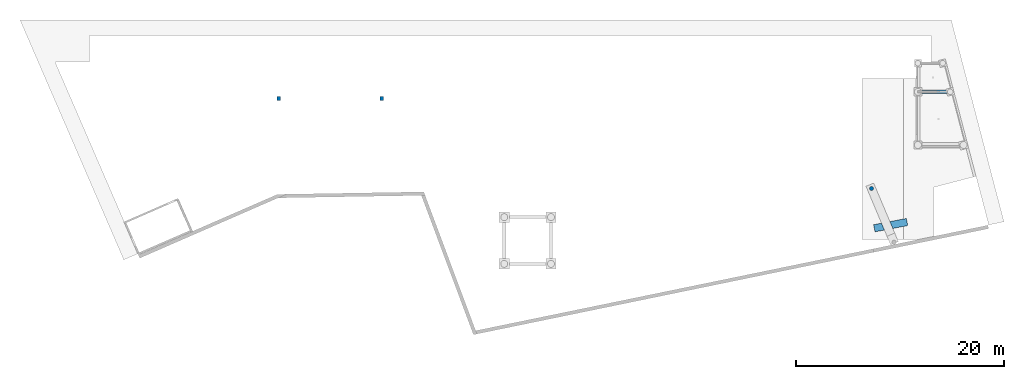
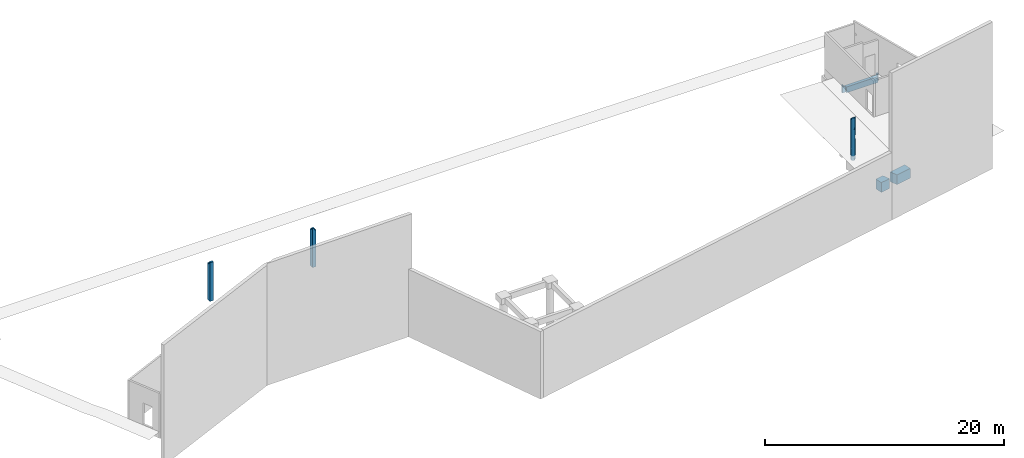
# One storey, part 3 of 5: 3 columns, 2 beams.
"""IFC2X3 building model written with IfcOpenShell, lengths in centimetres."""

from ifc_helpers import new_model, entity, si_unit, converted_unit, derived_unit, direction, frame, origin, place, context, subcontext, project, spatial, faceted_brep, source, transform, mapped, material, type_object, type_shapes, element, save


model = new_model("IFC2X3")

# Units and contexts
model_context = context("Model", 3, precision=0.001, world=origin(), true_north=direction((6.12303176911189e-17, 1.0)))
body_context = subcontext(model_context, "Body", "Model", "MODEL_VIEW")
ifc_project = project(units=[si_unit("LENGTHUNIT", "METRE", prefix="CENTI"), si_unit("AREAUNIT", "SQUARE_METRE"), si_unit("VOLUMEUNIT", "CUBIC_METRE"), converted_unit("PLANEANGLEUNIT", "DEGREE", entity("IfcRatioMeasure", 0.0174532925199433), si_unit("PLANEANGLEUNIT", "RADIAN"), dimensions=[0, 0, 0, 0, 0, 0, 0]), si_unit("MASSUNIT", "GRAM", prefix="KILO"), derived_unit("MASSDENSITYUNIT", [(si_unit("MASSUNIT", "GRAM", prefix="KILO"), 1), (si_unit("LENGTHUNIT", "METRE"), -3)]), si_unit("TIMEUNIT", "SECOND"), si_unit("FREQUENCYUNIT", "HERTZ"), si_unit("THERMODYNAMICTEMPERATUREUNIT", "DEGREE_CELSIUS"), derived_unit("THERMALTRANSMITTANCEUNIT", [(si_unit("MASSUNIT", "GRAM", prefix="KILO"), 1), (si_unit("THERMODYNAMICTEMPERATUREUNIT", "KELVIN"), -1), (si_unit("TIMEUNIT", "SECOND"), -3)]), derived_unit("VOLUMETRICFLOWRATEUNIT", [(si_unit("LENGTHUNIT", "METRE"), 3), (si_unit("TIMEUNIT", "SECOND"), -1)]), si_unit("ELECTRICCURRENTUNIT", "AMPERE"), si_unit("ELECTRICVOLTAGEUNIT", "VOLT"), si_unit("POWERUNIT", "WATT"), si_unit("FORCEUNIT", "NEWTON"), si_unit("ILLUMINANCEUNIT", "LUX"), si_unit("LUMINOUSFLUXUNIT", "LUMEN"), si_unit("LUMINOUSINTENSITYUNIT", "CANDELA"), derived_unit("USERDEFINED", [(si_unit("MASSUNIT", "GRAM", prefix="KILO"), -1), (si_unit("LENGTHUNIT", "METRE"), -2), (si_unit("TIMEUNIT", "SECOND"), 3), (si_unit("LUMINOUSFLUXUNIT", "LUMEN"), 1)]), derived_unit("LINEARVELOCITYUNIT", [(si_unit("LENGTHUNIT", "METRE"), 1), (si_unit("TIMEUNIT", "SECOND"), -1)]), si_unit("PRESSUREUNIT", "PASCAL"), derived_unit("USERDEFINED", [(si_unit("LENGTHUNIT", "METRE"), -2), (si_unit("MASSUNIT", "GRAM", prefix="KILO"), 1), (si_unit("TIMEUNIT", "SECOND"), -2)])], contexts=[model_context])

# Site, building, storey
site_placement = place(None, origin())
site = spatial("IfcSite", under=ifc_project, at=site_placement, Name="Default", CompositionType="ELEMENT")
building_placement = place(site_placement, origin())
building = spatial("IfcBuilding", under=site, at=building_placement, Name="CAGE 03", CompositionType="ELEMENT")
storey_placement = place(building_placement, frame((0.0, 0.0, -50.0)))
storey = spatial("IfcBuildingStorey", under=building, at=storey_placement, Name="+3.50", CompositionType="ELEMENT", Elevation=-50.0000000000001)

# Columns
ifc_material = material(Name="Béton, C25/30")
column_type_1 = type_object("IfcColumnType", Name="35x40", PredefinedType="COLUMN", material=ifc_material)
shared_shape_1 = source(origin(), body_context, "Body", "Brep", [
    faceted_brep([(0.0, 0.0, 398.0), (35.0, 0.0, 398.0), (35.0, 18.0, 398.0), (0.0, 18.0, 398.0), (0.0, 0.0, 298.0), (35.0, 0.0, 298.0), (35.0, 0.0, 378.0), (35.0, 0.0, 397.589956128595), (35.0, 40.0, 298.0), (35.0, 40.0, 375.0), (35.0, 18.0, 375.0), (0.0, 40.0, 298.0), (0.0, 40.0, 375.0), (0.0, 18.0, 375.0)], [[[0, 1, 2, 3]], [[1, 0, 4, 5, 6, 7]], [[1, 7, 6, 5, 8, 9, 10, 2]], [[8, 11, 12, 9]], [[4, 0, 3, 13, 12, 11]], [[5, 4, 11, 8]], [[13, 10, 9, 12]], [[10, 13, 3, 2]]]),
    faceted_brep([(0.0, 40.0, 0.0), (35.0, 40.0, 0.0), (35.0, 0.0, 0.0), (0.0, 0.0, 0.0), (0.0, 40.0, 298.0), (35.0, 40.0, 298.0), (35.0, 0.0, 298.0), (0.0, 0.0, 298.0)], [[[0, 1, 2, 3]], [[4, 5, 1, 0]], [[5, 6, 2, 1]], [[6, 7, 3, 2]], [[7, 4, 0, 3]], [[4, 7, 6, 5]]]),
])
type_shapes(column_type_1, [shared_shape_1])
column_1_placement = place(storey_placement, frame((4878.36582014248, 4668.66066607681, -8.0)))
element("IfcColumn", 1, at=column_1_placement, inside=storey, type_object=column_type_1, material=ifc_material, Name="BBGO-Poteau rect:35x40", ObjectType="35x40", context=body_context, shape_type="MappedRepresentation", body=[
    mapped(shared_shape_1, transform((0.0, 0.0, 0.0), scale=1.0)),
])
column_type_2 = type_object("IfcColumnType", Name="35x40", PredefinedType="COLUMN", material=ifc_material)
shared_shape_2 = source(origin(), body_context, "Body", "Brep", [
    faceted_brep([(0.0, 0.0, 398.0), (18.0, 0.0, 398.0), (18.0, 18.0, 398.0), (0.0, 18.0, 398.0), (0.0, 0.0, 298.0), (35.0, 0.0, 298.0), (35.0, 0.0, 375.0), (18.0, 0.0, 375.0), (35.0, 40.0, 298.0), (35.0, 40.0, 375.0), (0.0, 40.0, 298.0), (0.0, 40.0, 318.0), (0.0, 40.0, 375.0), (0.0, 18.0, 375.0), (18.0, 18.0, 375.0)], [[[0, 1, 2, 3]], [[0, 4, 5, 6, 7, 1]], [[5, 8, 9, 6]], [[8, 10, 11, 12, 9]], [[4, 0, 3, 13, 12, 11, 10]], [[5, 4, 10, 8]], [[13, 14, 7, 6, 9, 12]], [[14, 2, 1, 7]], [[2, 14, 13, 3]]]),
    faceted_brep([(0.0, 40.0, 0.0), (35.0, 40.0, 0.0), (35.0, 0.0, 0.0), (0.0, 0.0, 0.0), (0.0, 40.0, 298.0), (35.0, 40.0, 298.0), (35.0, 0.0, 298.0), (0.0, 0.0, 298.0)], [[[0, 1, 2, 3]], [[4, 5, 1, 0]], [[5, 6, 2, 1]], [[6, 7, 3, 2]], [[7, 4, 0, 3]], [[4, 7, 6, 5]]]),
])
type_shapes(column_type_2, [shared_shape_2])
column_2_placement = place(storey_placement, frame((5870.36582014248, 4668.6606660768, -8.0)))
element("IfcColumn", 2, at=column_2_placement, inside=storey, type_object=column_type_2, material=ifc_material, Name="BBGO-Poteau rect:35x40", ObjectType="35x40", context=body_context, shape_type="MappedRepresentation", body=[
    mapped(shared_shape_2, transform((0.0, 0.0, 0.0), scale=1.0)),
])
column_type_3 = type_object("IfcColumnType", Name="Ø40", PredefinedType="COLUMN", material=ifc_material)
shared_shape_3 = source(origin(), body_context, "Body", "Brep", [
    faceted_brep([(20.1592798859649, 0.15952722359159, 432.0), (24.1747863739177, 0.56562620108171, 432.0), (28.0268823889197, 1.77079902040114, 432.0), (31.558790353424, 3.72501818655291, 432.0), (34.6266586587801, 6.34892979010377, 432.0), (37.1053163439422, 9.53579493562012, 432.0), (38.8945212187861, 13.158423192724, 432.0), (1.42453322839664, 13.158423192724, 432.0), (3.21309378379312, 9.5368228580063, 432.0), (5.69163350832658, 6.34972841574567, 432.0), (8.75957364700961, 3.72549714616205, 432.0), (12.2915774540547, 1.77105343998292, 432.0), (16.1437464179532, 0.565733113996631, 432.0), (20.1595272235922, 40.1568322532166, 332.0), (24.6091393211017, 39.6571655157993, 332.0), (28.8358050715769, 38.178473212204, 332.0), (32.6277082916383, 35.7963406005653, 332.0), (35.79474182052, 32.629993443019, 332.0), (38.1780107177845, 28.8379538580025, 332.0), (39.657714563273, 24.6104665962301, 332.0), (40.1595272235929, 20.1584231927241, 332.0), (39.657714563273, 15.7063797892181, 332.0), (38.1780107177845, 11.4788925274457, 332.0), (35.7947418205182, 7.68685294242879, 332.0), (32.6277082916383, 4.52050578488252, 332.0), (28.8358050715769, 2.13837317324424, 332.0), (24.6091393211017, 0.659680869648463, 332.0), (20.1595272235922, 0.160014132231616, 332.0), (15.7099151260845, 0.659680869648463, 332.0), (11.4832493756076, 2.13837317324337, 332.0), (7.69134615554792, 4.52050578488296, 332.0), (4.52431262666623, 7.68685294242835, 332.0), (2.14104372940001, 11.4788925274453, 332.0), (0.661339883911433, 15.7063797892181, 332.0), (0.159527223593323, 20.1584231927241, 332.0), (0.661339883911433, 24.6104665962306, 332.0), (2.14104372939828, 28.8379538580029, 332.0), (4.52431262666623, 32.6299934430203, 332.0), (7.69134615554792, 35.7963406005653, 332.0), (11.4832493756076, 38.178473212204, 332.0), (15.7099151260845, 39.6571655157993, 332.0), (0.478319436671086, 16.6017309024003, 409.0), (0.15952722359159, 20.1584231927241, 409.0), (1.42453322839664, 13.1584231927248, 409.0), (38.8945212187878, 13.158423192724, 409.0), (39.8407350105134, 16.6017309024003, 409.0), (40.1595272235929, 20.1584231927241, 409.0), (38.1780106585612, 28.8379539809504, 409.0), (28.835804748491, 38.1784733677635, 409.0), (32.6277079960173, 35.7963408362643, 409.0), (35.794741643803, 32.6299936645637, 409.0), (24.6091391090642, 39.6571655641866, 409.0), (39.6577145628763, 24.6104665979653, 409.0), (20.1595272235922, 40.1584231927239, 409.0), (11.4832496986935, 38.1784733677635, 409.0), (7.69134645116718, 35.7963408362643, 409.0), (0.661339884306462, 24.6104665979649, 409.0), (2.14104378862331, 28.8379539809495, 409.0), (4.52431280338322, 32.6299936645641, 409.0), (15.7099153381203, 39.6571655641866, 409.0)], [[[0, 1, 2, 3, 4, 5, 6, 7, 8, 9, 10, 11, 12]], [[13, 14, 15, 16, 17, 18, 19, 20, 21, 22, 23, 24, 25, 26, 27, 28, 29, 30, 31, 32, 33, 34, 35, 36, 37, 38, 39, 40]], [[41, 34, 33]], [[41, 42, 34]], [[43, 33, 32]], [[30, 29, 10]], [[9, 31, 30]], [[8, 32, 31]], [[11, 29, 28]], [[43, 41, 33]], [[8, 7, 43]], [[32, 8, 43]], [[31, 9, 8]], [[9, 30, 10]], [[11, 10, 29]], [[12, 11, 28]], [[12, 27, 0]], [[12, 28, 27]], [[2, 26, 25]], [[1, 27, 26]], [[3, 25, 24]], [[22, 21, 44]], [[5, 23, 22]], [[4, 24, 23]], [[45, 21, 20]], [[2, 25, 3]], [[4, 3, 24]], [[2, 1, 26]], [[44, 21, 45]], [[44, 6, 5]], [[20, 46, 45]], [[5, 4, 23]], [[22, 44, 5]], [[27, 1, 0]], [[47, 18, 17]], [[15, 14, 48]], [[49, 16, 15]], [[50, 17, 16]], [[13, 51, 14]], [[19, 52, 46, 20]], [[19, 18, 52]], [[47, 52, 18]], [[17, 50, 47]], [[16, 49, 50]], [[48, 49, 15]], [[14, 51, 48]], [[13, 53, 51]], [[54, 40, 39]], [[38, 55, 39]], [[36, 35, 56]], [[57, 37, 36]], [[58, 38, 37]], [[42, 56, 35, 34]], [[13, 59, 53]], [[59, 40, 54]], [[55, 54, 39]], [[38, 58, 55]], [[37, 57, 58]], [[56, 57, 36]], [[59, 13, 40]], [[48, 51, 53, 59, 54, 55, 58, 57, 56, 42, 41, 43, 44, 45, 46, 52, 47, 50, 49]], [[6, 44, 43, 7]]]),
    faceted_brep([(22.570260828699, 40.0126006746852, 0.0), (27.2516249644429, 38.8587480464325, 0.0), (31.5208221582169, 36.6181005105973, 0.0), (35.1297421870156, 33.4208763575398, 0.0), (37.868647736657, 29.4528866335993, 0.0), (39.5783635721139, 24.9447364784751, 0.0), (40.1595272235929, 20.1584231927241, 0.0), (39.5783635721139, 15.3721099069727, 0.0), (37.868647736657, 10.8639597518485, 0.0), (35.1297421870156, 6.89597002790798, 0.0), (31.5208221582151, 3.69874587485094, 0.0), (27.2516249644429, 1.45809833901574, 0.0), (22.570260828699, 0.304245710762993, 0.0), (17.7487936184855, 0.304245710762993, 0.0), (13.0674294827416, 1.45809833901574, 0.0), (8.79823228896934, 3.69874587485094, 0.0), (5.18931226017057, 6.89597002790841, 0.0), (2.45040671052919, 10.863959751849, 0.0), (0.740690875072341, 15.3721099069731, 0.0), (0.159527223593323, 20.1584231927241, 0.0), (0.740690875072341, 24.9447364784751, 0.0), (2.45040671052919, 29.4528866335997, 0.0), (5.18931226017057, 33.4208763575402, 0.0), (8.79823228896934, 36.6181005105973, 0.0), (13.0674294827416, 38.8587480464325, 0.0), (17.7487936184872, 40.0126006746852, 0.0), (27.2516249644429, 1.45809833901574, 332.0), (31.5208221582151, 3.69874587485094, 332.0), (35.1297421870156, 6.89597002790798, 332.0), (37.868647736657, 10.8639597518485, 332.0), (39.5783635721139, 15.3721099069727, 332.0), (40.1595272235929, 20.1584231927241, 332.0), (39.5783635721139, 24.9447364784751, 332.0), (37.868647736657, 29.4528866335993, 332.0), (35.1297421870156, 33.4208763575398, 332.0), (31.5208221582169, 36.6181005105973, 332.0), (27.2516249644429, 38.8587480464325, 332.0), (22.570260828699, 40.0126006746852, 332.0), (17.7487936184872, 40.0126006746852, 332.0), (13.0674294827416, 38.8587480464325, 332.0), (8.79823228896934, 36.6181005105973, 332.0), (5.18931226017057, 33.4208763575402, 332.0), (2.45040671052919, 29.4528866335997, 332.0), (0.740690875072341, 24.9447364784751, 332.0), (0.159527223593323, 20.1584231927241, 332.0), (0.740690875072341, 15.3721099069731, 332.0), (2.45040671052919, 10.863959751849, 332.0), (5.18931226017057, 6.89597002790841, 332.0), (8.79823228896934, 3.69874587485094, 332.0), (13.0674294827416, 1.45809833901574, 332.0), (17.7487936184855, 0.304245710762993, 332.0), (22.570260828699, 0.304245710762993, 332.0), (29.4539906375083, 37.8675437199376, 268.296331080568), (15.3732139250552, 39.5772595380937, 270.927197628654), (36.6192045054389, 31.5197181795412, 66.7111356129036), (39.0506692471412, 26.7253671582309, 177.769676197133), (39.8608828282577, 23.6017627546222, 136.208424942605), (38.8598520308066, 27.2505210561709, 106.218294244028), (29.4539906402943, 37.8675437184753, 66.711135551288), (33.421980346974, 35.1286381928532, 94.1388446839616), (0.15952722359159, 20.1584231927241, 233.239965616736), (0.467980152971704, 23.6574193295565, 271.251882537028), (0.643178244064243, 24.5301645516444, 174.588817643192), (36.6192045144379, 31.5197181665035, 268.296331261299), (36.6192044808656, 31.5197182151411, 193.30577761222), (35.9798218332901, 32.3943652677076, 130.008456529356), (33.4481619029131, 35.105402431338, 177.037171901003), (3.69984989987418, 31.5197181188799, 166.0), (3.02131752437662, 30.4677281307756, 113.53640118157), (1.80561402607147, 28.1041056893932, 156.320583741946), (1.45920236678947, 27.2505209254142, 237.861155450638), (24.9458404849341, 39.5772595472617, 94.1388444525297), (20.1595272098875, 40.1584231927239, 66.7111355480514), (40.1595272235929, 20.1584231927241, 264.760317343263), (10.8650637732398, 37.8675437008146, 94.1388445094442), (33.4219803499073, 35.1286381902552, 249.321056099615), (38.859852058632, 27.2505209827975, 249.321056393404), (0.15952722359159, 20.1584231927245, 67.2408744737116), (3.69984990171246, 31.519718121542, 270.927197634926), (29.453990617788, 37.8675437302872, 166.0), (15.3732139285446, 39.5772595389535, 61.0728024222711), (6.89707405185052, 35.1286381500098, 265.288864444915), (11.061981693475, 37.9695058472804, 170.770907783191), (7.36249840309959, 35.5283956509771, 147.490419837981), (6.89707405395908, 35.1286381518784, 66.7111355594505), (0.426313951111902, 23.4142324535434, 100.859525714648), (25.1608490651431, 39.5229985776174, 170.77090782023), (20.7729905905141, 40.1490125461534, 147.490419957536), (3.69984990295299, 31.51971812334, 61.0728023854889), (20.1595272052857, 40.1584231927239, 265.288864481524), (24.9458404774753, 39.5772595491, 237.861155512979), (39.8102622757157, 23.8797955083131, 78.2212715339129), (14.1677267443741, 39.2397839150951, 113.536401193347), (10.8650637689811, 37.8675436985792, 237.861155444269), (1.45920236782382, 27.2505209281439, 94.1388445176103), (38.8833575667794, 27.1882295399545, 47.6262125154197), (30.874744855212, 37.0458182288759, 217.148165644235), (39.8773475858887, 23.506192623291, 231.140477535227), (21.4534188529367, 40.1165254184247, 209.848535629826), (17.4766568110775, 39.9776614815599, 218.463598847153), (7.89334922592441, 35.9552860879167, 209.848535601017), (5.00878391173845, 33.2142639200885, 218.463598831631), (15.3732139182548, 39.5772595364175, 166.0), (0.15952722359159, 20.1584231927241, 98.7605271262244), (0.15952722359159, 20.1584231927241, 134.479931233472), (40.1595272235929, 20.1584231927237, 233.239683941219), (40.1595272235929, 20.1584231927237, 197.520634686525), (40.1595272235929, 20.1584231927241, 134.479367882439), (40.1595272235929, 20.1584231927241, 98.7603173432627), (40.1595272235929, 20.1584231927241, 67.2396839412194), (0.15952722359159, 20.1584231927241, 197.521054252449), (0.15952722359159, 20.1584231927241, 264.761290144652), (3.69984990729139, 8.79712825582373, 66.7111355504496), (6.89707406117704, 5.18820822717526, 94.1388445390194), (6.87089248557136, 5.21144400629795, 177.037171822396), (6.89707406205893, 5.18820822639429, 249.321055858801), (3.69984991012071, 8.79712825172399, 193.305777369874), (39.8510742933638, 16.6594270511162, 271.251882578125), (38.8598520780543, 13.0663254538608, 237.861155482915), (10.8650637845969, 2.44930267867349, 66.7111355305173), (33.4219803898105, 5.18820823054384, 265.288864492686), (39.675876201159, 15.7866818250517, 174.588817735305), (39.8927404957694, 16.9026139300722, 100.859525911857), (36.6192045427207, 8.7971282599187, 166.0), (37.2977369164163, 9.84911824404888, 113.536401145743), (38.5134404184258, 12.2127406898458, 156.320583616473), (20.1595272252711, 0.158423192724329, 66.7111355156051), (15.373213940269, 0.739586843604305, 94.1388445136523), (1.26838521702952, 13.5914791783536, 177.769675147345), (0.458171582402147, 16.7150838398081, 136.208425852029), (1.45920237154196, 13.0663254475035, 106.218294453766), (10.8650637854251, 2.44930267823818, 268.296330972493), (24.9458405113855, 0.739586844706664, 270.927197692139), (3.69984990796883, 8.79712825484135, 268.296330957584), (4.3392325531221, 7.92248119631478, 130.008456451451), (1.45920237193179, 13.066325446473, 249.321055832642), (29.45399066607, 2.4493026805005, 94.1388445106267), (10.865063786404, 2.4493026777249, 166.0), (24.9458405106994, 0.739586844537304, 61.0728023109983), (33.4219803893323, 5.18820823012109, 66.7111355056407), (32.956556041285, 4.7884507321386, 147.490419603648), (15.1582053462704, 0.793847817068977, 170.770907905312), (19.5460638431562, 0.167833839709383, 147.490419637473), (36.6192045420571, 8.79712825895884, 61.0728022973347), (20.159527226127, 0.158423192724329, 265.288864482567), (15.3732139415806, 0.739586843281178, 237.861155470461), (0.508792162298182, 16.4370509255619, 78.2212761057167), (1.43569679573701, 13.1286170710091, 47.6262138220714), (26.1513276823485, 1.07706246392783, 113.53640115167), (29.4539906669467, 2.44930268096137, 237.861155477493), (36.6192045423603, 8.79712825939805, 270.927197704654), (38.8598520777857, 13.066325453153, 94.1388445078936), (29.2570727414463, 2.34734053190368, 170.770907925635), (9.44430955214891, 3.27102818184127, 217.148165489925), (0.441706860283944, 16.8106537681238, 231.140474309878), (18.8656355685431, 0.200320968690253, 209.848535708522), (22.8423976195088, 0.339184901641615, 218.463598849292), (32.4257052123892, 4.36156029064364, 209.848535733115), (35.3102705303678, 7.10258245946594, 218.463598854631), (24.9458405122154, 0.739586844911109, 166.0)], [[[0, 1, 2, 3, 4, 5, 6, 7, 8, 9, 10, 11, 12, 13, 14, 15, 16, 17, 18, 19, 20, 21, 22, 23, 24, 25]], [[26, 27, 28, 29, 30, 31, 32, 33, 34, 35, 36, 37, 38, 39, 40, 41, 42, 43, 44, 45, 46, 47, 48, 49, 50, 51]], [[36, 35, 52]], [[39, 38, 53]], [[4, 3, 54]], [[55, 56, 57]], [[2, 58, 59]], [[60, 61, 62]], [[34, 33, 63]], [[64, 65, 66]], [[2, 1, 58]], [[67, 68, 69]], [[61, 43, 70]], [[71, 0, 72]], [[2, 59, 3]], [[71, 1, 0]], [[3, 59, 54]], [[32, 31, 73]], [[74, 24, 23]], [[35, 34, 75]], [[76, 33, 32]], [[63, 33, 76]], [[75, 63, 64]], [[20, 19, 77]], [[35, 75, 52]], [[42, 41, 78]], [[59, 58, 79]], [[66, 75, 64]], [[72, 25, 80]], [[40, 81, 41]], [[82, 74, 83]], [[74, 23, 84]], [[85, 62, 69]], [[86, 71, 87]], [[84, 68, 83]], [[84, 23, 22]], [[22, 88, 84]], [[37, 89, 38]], [[74, 84, 83]], [[70, 43, 42]], [[89, 37, 90]], [[53, 38, 89]], [[91, 57, 56]], [[55, 64, 76]], [[44, 43, 61]], [[87, 72, 92]], [[72, 0, 25]], [[39, 93, 40]], [[81, 40, 93]], [[65, 57, 54]], [[21, 20, 94]], [[78, 41, 81]], [[71, 72, 87]], [[36, 90, 37]], [[77, 85, 20]], [[91, 95, 57]], [[96, 90, 52]], [[73, 97, 32]], [[76, 97, 55]], [[1, 71, 58]], [[5, 91, 6]], [[79, 58, 71]], [[65, 54, 59]], [[95, 54, 57]], [[25, 24, 80]], [[80, 92, 72]], [[89, 98, 99]], [[99, 93, 53]], [[22, 21, 88]], [[88, 68, 84]], [[81, 100, 101]], [[101, 70, 78]], [[87, 102, 99]], [[85, 77, 103, 104]], [[98, 90, 86]], [[83, 67, 101]], [[100, 93, 82]], [[96, 52, 75]], [[90, 36, 52]], [[64, 63, 76]], [[75, 34, 63]], [[24, 74, 80]], [[97, 73, 105, 106]], [[92, 80, 74]], [[99, 53, 89]], [[93, 39, 53]], [[21, 94, 88]], [[68, 88, 94]], [[101, 78, 81]], [[70, 42, 78]], [[56, 106, 107, 108]], [[32, 97, 76]], [[56, 97, 106]], [[55, 57, 65]], [[56, 55, 97]], [[91, 56, 108]], [[91, 108, 109, 6]], [[95, 91, 5]], [[5, 4, 95]], [[54, 95, 4]], [[66, 59, 79]], [[65, 64, 55]], [[59, 66, 65]], [[66, 79, 96]], [[62, 85, 104]], [[20, 85, 94]], [[62, 104, 110, 60]], [[70, 67, 69]], [[89, 90, 98]], [[93, 99, 102]], [[86, 90, 79]], [[87, 99, 98]], [[71, 86, 79]], [[87, 98, 86]], [[81, 93, 100]], [[70, 101, 67]], [[82, 93, 102]], [[83, 101, 100]], [[82, 102, 92]], [[83, 100, 82]], [[62, 61, 70]], [[61, 60, 111, 44]], [[66, 96, 75]], [[90, 96, 79]], [[82, 92, 74]], [[87, 92, 102]], [[94, 85, 69]], [[83, 68, 67]], [[94, 69, 68]], [[70, 69, 62]], [[112, 16, 113]], [[114, 115, 116]], [[117, 30, 118]], [[16, 15, 113]], [[15, 119, 113]], [[27, 120, 28]], [[119, 15, 14]], [[105, 117, 121]], [[115, 48, 47]], [[109, 122, 7]], [[123, 124, 125]], [[13, 126, 127]], [[128, 129, 130]], [[127, 14, 13]], [[49, 48, 131]], [[44, 111, 45]], [[26, 51, 132]], [[115, 133, 116]], [[116, 134, 114]], [[133, 47, 46]], [[135, 133, 46]], [[7, 6, 109]], [[131, 48, 115]], [[136, 11, 10]], [[113, 119, 137]], [[17, 16, 112]], [[126, 12, 138]], [[136, 139, 140]], [[139, 10, 9]], [[136, 10, 139]], [[122, 121, 125]], [[126, 13, 12]], [[139, 124, 140]], [[141, 127, 142]], [[9, 143, 139]], [[127, 126, 142]], [[50, 144, 51]], [[118, 30, 29]], [[144, 50, 145]], [[132, 51, 144]], [[146, 147, 130]], [[135, 46, 45]], [[146, 130, 129]], [[142, 126, 148]], [[31, 30, 117]], [[26, 149, 27]], [[120, 27, 149]], [[150, 28, 120]], [[8, 7, 151]], [[128, 116, 135]], [[134, 130, 112]], [[49, 145, 50]], [[152, 136, 140]], [[29, 28, 150]], [[153, 145, 131]], [[111, 154, 45]], [[135, 154, 128]], [[14, 127, 119]], [[18, 146, 19]], [[137, 119, 127]], [[134, 112, 113]], [[147, 112, 130]], [[12, 11, 138]], [[138, 148, 126]], [[144, 155, 156]], [[156, 149, 132]], [[9, 8, 143]], [[143, 124, 139]], [[120, 157, 158]], [[158, 118, 150]], [[142, 159, 156]], [[122, 109, 108, 107]], [[155, 145, 141]], [[140, 123, 158]], [[157, 149, 152]], [[153, 131, 115]], [[145, 49, 131]], [[116, 133, 135]], [[115, 47, 133]], [[11, 136, 138]], [[154, 111, 60, 110]], [[148, 138, 136]], [[156, 132, 144]], [[149, 26, 132]], [[8, 151, 143]], [[124, 143, 151]], [[158, 150, 120]], [[118, 29, 150]], [[129, 110, 104, 103]], [[45, 154, 135]], [[129, 154, 110]], [[128, 130, 134]], [[129, 128, 154]], [[146, 129, 103]], [[146, 103, 77, 19]], [[147, 146, 18]], [[18, 17, 147]], [[112, 147, 17]], [[114, 113, 137]], [[134, 116, 128]], [[113, 114, 134]], [[114, 137, 153]], [[121, 122, 107]], [[7, 122, 151]], [[121, 107, 106, 105]], [[118, 123, 125]], [[144, 145, 155]], [[149, 156, 159]], [[141, 145, 137]], [[142, 156, 155]], [[127, 141, 137]], [[142, 155, 141]], [[120, 149, 157]], [[118, 158, 123]], [[152, 149, 159]], [[140, 158, 157]], [[152, 159, 148]], [[140, 157, 152]], [[121, 117, 118]], [[117, 105, 73, 31]], [[114, 153, 115]], [[145, 153, 137]], [[152, 148, 136]], [[142, 148, 159]], [[151, 122, 125]], [[140, 124, 123]], [[151, 125, 124]], [[118, 125, 121]]]),
])
type_shapes(column_type_3, [shared_shape_3])
column_3_placement = place(storey_placement, frame((10581.2062929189, 3801.50224288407, -42.0)))
element("IfcColumn", 3, at=column_3_placement, inside=storey, type_object=column_type_3, material=ifc_material, Name="BBGO-Poteau circ:Ø40", ObjectType="Ø40", context=body_context, shape_type="MappedRepresentation", body=[
    mapped(shared_shape_3, transform((0.0, 0.0, 0.0), scale=1.0)),
])

# Beams
beam_type_1 = type_object("IfcBeamType", Name="BBGO-Poutre rect:30x80ht", PredefinedType="BEAM")
beam_1_placement = place(storey_placement, frame((11037.3658201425, 4737.66066607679, -85.0), z_axis=(0.0, 0.0, 1.0), x_axis=(-1.0, 0.0, 0.0)))
element("IfcBeam", 4, at=beam_1_placement, inside=storey, type_object=beam_type_1, material=ifc_material, Name="BBGO-Poutre rect:30x80ht", ObjectType="BBGO-Poutre rect:30x80ht", context=body_context, shape_type="Brep", body=[
    faceted_brep([(0.0, -30.0, 80.0), (0.0, -30.0, 0.0), (0.0, -15.0, 0.0), (0.0, -15.0, 80.0), (-348.4376239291, -30.0, 0.0), (-348.4376239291, -30.0, 80.0), (-348.437623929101, -15.4105941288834, 80.0), (-348.437623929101, -15.4105941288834, 0.0), (-9.0, -30.0, 80.0), (-9.0, -30.0, 60.0), (-31.0, -30.0, 60.0), (-327.983698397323, -30.0, 60.0), (-335.218466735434, -30.0, 60.0), (-335.218466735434, -30.0, 80.0), (-327.983698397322, -30.0, 0.0), (-31.0, -30.0, 0.0), (-332.856442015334, -11.3415038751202, 0.0), (-335.818322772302, 0.0, 0.0), (-31.0, 0.0, 0.0), (-31.0, -15.0, 0.0), (-31.0, 0.0, 60.0), (-335.818322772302, 0.0, 60.0), (-9.0, -15.0, 80.0), (-9.0, -15.0, 60.0), (-31.0, -15.0, 60.0), (-332.856442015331, -11.3415038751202, 60.0), (-339.629291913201, -13.1102617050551, 60.0), (-339.629291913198, -13.1102617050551, 80.0)], [[[0, 1, 2, 3]], [[4, 5, 6, 7]], [[1, 0, 8, 9, 10, 11, 12, 13, 5, 4, 14, 15]], [[1, 15, 14, 4, 7, 16, 17, 18, 19, 2]], [[20, 18, 17, 21]], [[8, 0, 3, 22]], [[12, 11, 10, 9, 23, 24, 20, 21, 25, 26]], [[9, 8, 22, 23]], [[24, 19, 18, 20]], [[19, 24, 23, 22, 3, 2]], [[13, 12, 26, 27]], [[5, 13, 27, 6]], [[16, 25, 21, 17]], [[25, 16, 7, 6, 27, 26]]]),
])
beam_type_2 = type_object("IfcBeamType", Name="70x100ht", PredefinedType="BEAM", material=ifc_material)
shared_shape_4 = source(origin(), body_context, "Body", "Brep", [
    faceted_brep([(13.1648723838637, 0.0, 100.0), (0.0, 68.7508991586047, 100.0), (0.0, 68.7508991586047, 0.0), (13.1648723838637, 0.0, 0.0), (75.947335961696, 83.2937923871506, 100.0), (75.9473359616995, 83.293792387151, 0.0), (12.7795600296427, 52.6297304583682, 0.0), (11.0439347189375, 46.9081405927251, 0.0), (15.5980625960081, 57.9027778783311, 0.0), (10.4578857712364, 40.9578857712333, 0.0), (11.0439347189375, 35.0076309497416, 0.0), (19.391128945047, 62.5246425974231, 0.0), (24.0129936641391, 66.3177089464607, 0.0), (29.2860410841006, 69.1362115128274, 0.0), (35.007630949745, 70.8718368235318, 0.0), (40.9578857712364, 71.4578857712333, 0.0), (46.9081405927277, 70.8718368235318, 0.0), (52.6297304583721, 69.1362115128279, 0.0), (57.9027778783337, 66.3177089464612, 0.0), (62.5246425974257, 62.5246425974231, 0.0), (66.3177089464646, 57.9027778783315, 0.0), (69.13621151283, 52.6297304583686, 0.0), (70.8718368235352, 46.9081405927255, 0.0), (103.683179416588, 17.3330381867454, 0.0), (71.4578857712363, 40.9578857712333, 0.0), (70.8718368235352, 35.0076309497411, 0.0), (69.13621151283, 29.286041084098, 0.0), (66.3177089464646, 24.0129936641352, 0.0), (62.5246425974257, 19.3911289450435, 0.0), (57.9027778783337, 15.5980625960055, 0.0), (52.6297304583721, 12.7795600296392, 0.0), (46.9081405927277, 11.0439347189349, 0.0), (12.7795600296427, 29.286041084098, 0.0), (15.5980625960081, 24.0129936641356, 0.0), (19.391128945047, 19.3911289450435, 0.0), (24.0129936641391, 15.5980625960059, 0.0), (29.2860410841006, 12.7795600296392, 0.0), (35.007630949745, 11.0439347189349, 0.0), (40.9578857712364, 10.4578857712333, 0.0), (103.683179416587, 17.333038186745, 100.0), (46.9081405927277, 11.0439347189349, 5.0), (40.9578857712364, 10.4578857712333, 5.0), (35.007630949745, 11.0439347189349, 5.0), (29.2860410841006, 12.7795600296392, 5.0), (24.0129936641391, 15.5980625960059, 5.0), (19.391128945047, 19.3911289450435, 5.0), (15.5980625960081, 24.0129936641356, 5.0), (12.7795600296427, 29.286041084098, 5.0), (11.0439347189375, 35.0076309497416, 5.0), (10.4578857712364, 40.9578857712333, 5.0), (11.0439347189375, 46.9081405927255, 5.0), (12.7795600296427, 52.6297304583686, 5.0), (15.5980625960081, 57.9027778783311, 5.0), (19.391128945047, 62.5246425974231, 5.0), (24.0129936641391, 66.3177089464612, 5.0), (29.2860410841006, 69.1362115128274, 5.0), (35.007630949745, 70.8718368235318, 5.0), (40.9578857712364, 71.4578857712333, 5.0), (46.9081405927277, 70.8718368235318, 5.0), (52.6297304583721, 69.1362115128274, 5.0), (57.9027778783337, 66.3177089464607, 5.0), (62.5246425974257, 62.5246425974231, 5.0), (66.3177089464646, 57.9027778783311, 5.0), (69.13621151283, 52.6297304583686, 5.0), (70.8718368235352, 46.9081405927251, 5.0), (71.4578857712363, 40.9578857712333, 5.0), (70.8718368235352, 35.0076309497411, 5.0), (69.13621151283, 29.286041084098, 5.0), (66.3177089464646, 24.0129936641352, 5.0), (62.5246425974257, 19.3911289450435, 5.0), (57.9027778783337, 15.5980625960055, 5.0), (52.6297304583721, 12.7795600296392, 5.0)], [[[0, 1, 2, 3]], [[2, 1, 4, 5]], [[2, 6, 7]], [[6, 2, 8]], [[7, 9, 2]], [[2, 9, 10]], [[11, 8, 2]], [[12, 11, 2]], [[13, 12, 2]], [[14, 13, 2]], [[2, 5, 14]], [[10, 3, 2]], [[15, 14, 5]], [[16, 15, 5]], [[16, 5, 17]], [[18, 17, 5]], [[5, 19, 18]], [[19, 5, 20]], [[21, 20, 5]], [[22, 21, 5]], [[5, 23, 22]], [[24, 22, 23]], [[25, 24, 23]], [[23, 26, 25]], [[27, 26, 23]], [[27, 23, 28]], [[29, 28, 23]], [[29, 23, 30]], [[31, 30, 23]], [[31, 23, 3]], [[10, 32, 3]], [[33, 3, 32]], [[3, 33, 34]], [[34, 35, 3]], [[35, 36, 3]], [[36, 37, 3]], [[37, 38, 3]], [[3, 38, 31]], [[0, 3, 23, 39]], [[1, 0, 39, 4]], [[39, 23, 5, 4]], [[40, 41, 42, 43, 44, 45, 46, 47, 48, 49, 50, 51, 52, 53, 54, 55, 56, 57, 58, 59, 60, 61, 62, 63, 64, 65, 66, 67, 68, 69, 70, 71]], [[33, 32, 47, 46]], [[10, 48, 47, 32]], [[33, 46, 45, 34]], [[42, 37, 36, 43]], [[36, 35, 44, 43]], [[34, 45, 44, 35]], [[41, 38, 37, 42]], [[9, 49, 48, 10]], [[30, 31, 40, 71]], [[29, 30, 71, 70]], [[29, 70, 69, 28]], [[26, 27, 68, 67]], [[67, 66, 25, 26]], [[28, 69, 68, 27]], [[24, 25, 66, 65]], [[31, 38, 41, 40]], [[20, 21, 63, 62]], [[22, 64, 63, 21]], [[20, 62, 61, 19]], [[58, 16, 17, 59]], [[17, 18, 60, 59]], [[19, 61, 60, 18]], [[57, 15, 16, 58]], [[24, 65, 64, 22]], [[13, 14, 56, 55]], [[12, 13, 55, 54]], [[12, 54, 53, 11]], [[6, 8, 52, 51]], [[51, 50, 7, 6]], [[11, 53, 52, 8]], [[9, 7, 50, 49]], [[14, 15, 57, 56]]]),
    faceted_brep([(314.768438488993, 129.024821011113, 100.0), (327.933310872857, 60.2739218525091, 100.0), (327.933310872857, 60.2739218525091, 0.0), (314.768438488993, 129.024821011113, 0.0), (156.265066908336, 98.6735574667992, 100.0), (156.265066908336, 98.6735574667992, 0.0), (184.000910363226, 32.712803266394, 0.0), (184.000910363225, 32.7128032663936, 100.0)], [[[0, 1, 2, 3]], [[4, 5, 6, 7]], [[0, 3, 5, 4]], [[3, 2, 6, 5]], [[2, 1, 7, 6]], [[1, 0, 4, 7]]]),
])
type_shapes(beam_type_2, [shared_shape_4])
beam_2_placement = place(storey_placement, frame((10622.2425174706, 3404.90736638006, -142.0)))
element("IfcBeam", 5, at=beam_2_placement, inside=storey, type_object=beam_type_2, material=ifc_material, Name="BBGO-Poutre rect:70x100ht", ObjectType="70x100ht", context=body_context, shape_type="MappedRepresentation", body=[
    mapped(shared_shape_4, transform((0.0, 0.0, 0.0), scale=1.0)),
])

save(model, "model.ifc")
